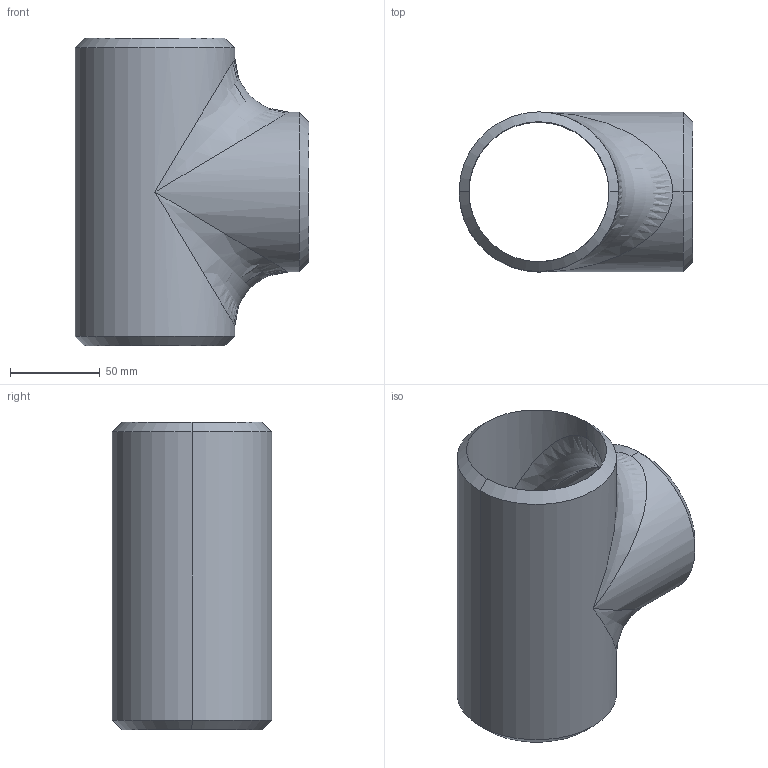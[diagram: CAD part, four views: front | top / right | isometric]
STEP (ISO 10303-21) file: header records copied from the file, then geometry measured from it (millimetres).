
FILE_DESCRIPTION (( 'STEP AP203' ), '1' );
FILE_NAME ('3D_R266_3x40S_173445180.STEP', '2024-08-23T11:13:46', ( '' ), ( '' ), 'SwSTEP 2.0', 'SolidWorks 2024', '' );
FILE_SCHEMA (( 'CONFIG_CONTROL_DESIGN' ));
Length unit declared in the file: millimetre
Products named in the file (1): 3D_R266_3x40S_173445180
Bounding box: 130.15 x 88.9 x 171.4 mm (x, y, z)
Volume: 276926.6 mm3; surface area: 106734.4 mm2
Topology: 1 solids, 1 shells, 21 faces, 58 edges, 30 vertices
Faces by surface type: cylinder 8, cone 6, bspline 4, plane 3
Entity records: 1363 total; most frequent: CARTESIAN_POINT 842, ORIENTED_EDGE 100, DIRECTION 88, EDGE_CURVE 50, AXIS2_PLACEMENT_3D 36, VERTEX_POINT 30, EDGE_LOOP 24, ADVANCED_FACE 21
